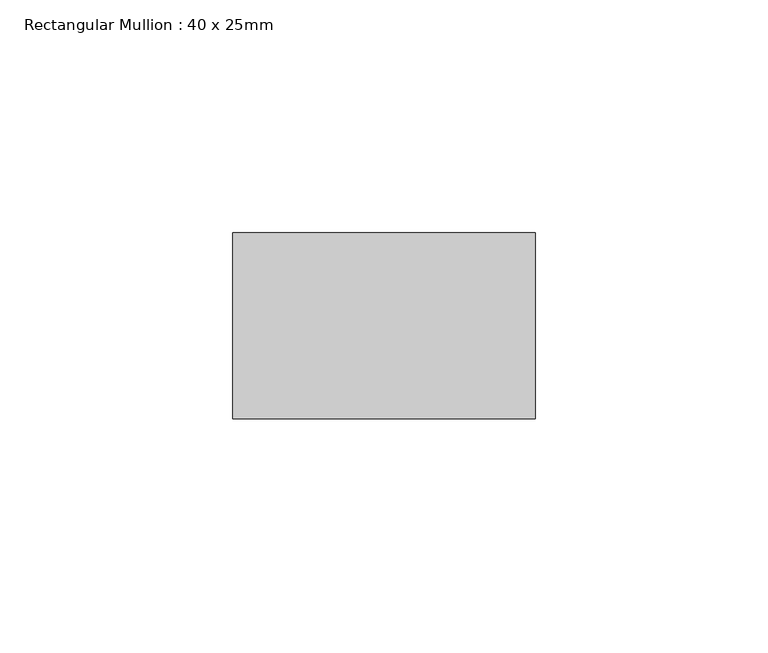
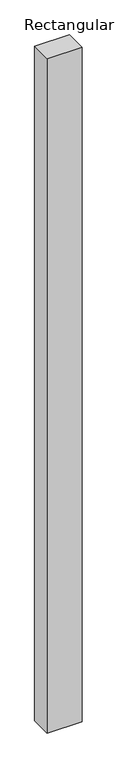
"""IFC4 building model written with IfcOpenShell, lengths in millimetres: member geometry, Rectangular Mullion : 40 x 25mm."""

import ifcopenshell
import ifcopenshell.guid

model = None  # the IFC model being written
_history = None  # IfcOwnerHistory: only IFC2X3 demands one
_inside = {}  # id of a spatial element -> (the spatial element, [elements in it])
_under = {}  # id of a project, library or spatial element -> (it, [spatial elements below it])
_declared = {}  # id of a project -> (the project, [libraries it declares])
_typed = {}  # id of a type object -> (the type object, [elements of that type])
_made_of = {}  # id of a material, layer set ... -> (it, [elements and type objects made of it])


def new_model(schema):
    """Start an empty IFC model of exactly this schema.

    Asked for "IFC4X3", IfcOpenShell would pick the latest addendum, in which some entities
    have other attributes; the version numbers below select the first issue.
    IFC2X3 requires an IfcOwnerHistory on every rooted entity: one is made here for all.
    """
    global model, _history
    if schema == "IFC4X3":
        model = ifcopenshell.file(schema_version=(4, 3, 0, 0))
    else:
        model = ifcopenshell.file(schema=schema)
    _inside.clear()
    _under.clear()
    _declared.clear()
    _typed.clear()
    _made_of.clear()
    _history = None
    if model.schema == "IFC2X3":
        org = make("IfcOrganization", Name="unknown")
        user = make(
            "IfcPersonAndOrganization",
            ThePerson=make("IfcPerson", FamilyName="unknown"),
            TheOrganization=org,
        )
        app = make(
            "IfcApplication",
            ApplicationDeveloper=org,
            Version="unknown",
            ApplicationFullName="unknown",
            ApplicationIdentifier="unknown",
        )
        _history = make(
            "IfcOwnerHistory",
            OwningUser=user,
            OwningApplication=app,
            ChangeAction="ADDED",
            CreationDate=0,
        )
    return model


def make(cls, **values):
    """One entity of the class cls with the attributes given. An attribute that is None is left unset."""
    return model.create_entity(
        cls, **{name: value for name, value in values.items() if value is not None}
    )


def rooted(cls, **values):
    """An entity with a GlobalId (a new one), such as an element, a storey or a relation."""
    return make(cls, GlobalId=ifcopenshell.guid.new(), OwnerHistory=_history, **values)


def si_unit(unit_type, name, prefix=None):
    """IfcSIUnit, for example si_unit("LENGTHUNIT", "METRE", prefix="MILLI")."""
    return make("IfcSIUnit", UnitType=unit_type, Prefix=prefix, Name=name)


def assignment(units):
    """IfcUnitAssignment: the units of a project."""
    return None if units is None else make("IfcUnitAssignment", Units=units)


def point(xyz):
    """IfcCartesianPoint."""
    return None if xyz is None else make("IfcCartesianPoint", Coordinates=xyz)


def direction(xyz):
    """IfcDirection."""
    return None if xyz is None else make("IfcDirection", DirectionRatios=xyz)


def frame(location, z_axis=None, x_axis=None):
    """IfcAxis2Placement3D, a coordinate frame: its origin and axes. An axis left out is left unset."""
    return make(
        "IfcAxis2Placement3D",
        Location=point(location),
        Axis=direction(z_axis),
        RefDirection=direction(x_axis),
    )


def origin():
    """The frame at (0, 0, 0) with its axes left unset."""
    return frame((0.0, 0.0, 0.0))


def place(relative_to, where):
    """IfcLocalPlacement: puts the frame where relative to a parent placement (None: the world)."""
    return make(
        "IfcLocalPlacement", PlacementRelTo=relative_to, RelativePlacement=where
    )


def context(
    kind, dimensions, precision=None, world=None, true_north=None, identifier=None
):
    """IfcGeometricRepresentationContext, for example the 3D "Model" context."""
    return make(
        "IfcGeometricRepresentationContext",
        ContextIdentifier=identifier,
        ContextType=kind,
        CoordinateSpaceDimension=dimensions,
        Precision=precision,
        WorldCoordinateSystem=world,
        TrueNorth=true_north,
    )


def project(units=None, contexts=None):
    """IfcProject with its units and contexts."""
    return rooted(
        "IfcProject",
        Name="project",
        RepresentationContexts=contexts,
        UnitsInContext=assignment(units),
    )


def spatial(cls, under=None, at=None, **own):
    """A site, building, storey or space (cls), placed at a placement, below another one or the project."""
    s = rooted(cls, ObjectPlacement=at, **own)
    if under is not None:
        _under.setdefault(under.id(), (under, []))[1].append(s)
    return s


def polyline(points):
    """IfcPolyline through the points."""
    return make("IfcPolyline", Points=[point(p) for p in points])


def outline(outer, holes=None, kind="AREA"):
    """IfcArbitraryClosedProfileDef: a profile drawn as a closed curve; with holes, ...WithVoids."""
    if holes is None:
        return make("IfcArbitraryClosedProfileDef", ProfileType=kind, OuterCurve=outer)
    return make(
        "IfcArbitraryProfileDefWithVoids",
        ProfileType=kind,
        OuterCurve=outer,
        InnerCurves=holes,
    )


def extrude(swept, where, along, depth):
    """IfcExtrudedAreaSolid: the profile swept, set in the frame where, extruded along a direction by depth."""
    return make(
        "IfcExtrudedAreaSolid",
        SweptArea=swept,
        Position=where,
        ExtrudedDirection=direction(along),
        Depth=depth,
    )


def shape(context_of_items, identifier, shape_type, items):
    """IfcShapeRepresentation: the items that make up one representation, for example the "Body"."""
    return make(
        "IfcShapeRepresentation",
        ContextOfItems=context_of_items,
        RepresentationIdentifier=identifier,
        RepresentationType=shape_type,
        Items=items,
    )


def source(mapping_origin, context_of_items, identifier, shape_type, items):
    """IfcRepresentationMap: a shape defined once, which mapped items show again and again."""
    return make(
        "IfcRepresentationMap",
        MappingOrigin=mapping_origin,
        MappedRepresentation=shape(context_of_items, identifier, shape_type, items),
    )


def transform(
    local_origin,
    x_axis=None,
    y_axis=None,
    z_axis=None,
    scale=None,
    scale2=None,
    scale3=None,
    uniform=True,
):
    """IfcCartesianTransformationOperator3D, or its non-uniform kind. x_axis, y_axis, z_axis: its Axis1, 2, 3."""
    if uniform:
        return make(
            "IfcCartesianTransformationOperator3D",
            Axis1=direction(x_axis),
            Axis2=direction(y_axis),
            LocalOrigin=point(local_origin),
            Scale=scale,
            Axis3=direction(z_axis),
        )
    return make(
        "IfcCartesianTransformationOperator3DnonUniform",
        Axis1=direction(x_axis),
        Axis2=direction(y_axis),
        LocalOrigin=point(local_origin),
        Scale=scale,
        Axis3=direction(z_axis),
        Scale2=scale2,
        Scale3=scale3,
    )


def mapped(mapping_source, mapping_target):
    """IfcMappedItem: shows the shape of a source again, moved by a transform."""
    return make(
        "IfcMappedItem", MappingSource=mapping_source, MappingTarget=mapping_target
    )


def made_of(thing, what):
    """Note that an element or type object is made of a material, layer set ...; save() writes the relation."""
    if what is not None:
        _made_of.setdefault(what.id(), (what, []))[1].append(thing)
    return thing


def element(
    cls,
    number,
    at=None,
    inside=None,
    cuts=None,
    type_object=None,
    material=None,
    context=None,
    identifier="Body",
    shape_type=None,
    held_by="IfcProductDefinitionShape",
    body=None,
    shapes=None,
    **own,
):
    """One element of the class cls, such as IfcWall. Its Tag is "e" and its number.

    at: its placement. inside: the storey or other place that contains it. cuts: it is an
    opening in that element (IfcRelVoidsElement). A single representation is given by context,
    identifier, shape_type and body (its items); several are given by shapes. held_by: the class
    of the entity that holds the representations. save() writes the other relations.
    """
    e = rooted(cls, Tag="e%d" % number, ObjectPlacement=at, **own)
    if body is not None:
        shapes = [shape(context, identifier, shape_type, body)]
    if shapes is not None:
        e.Representation = make(held_by, Representations=shapes)
    if inside is not None:
        _inside.setdefault(inside.id(), (inside, []))[1].append(e)
    if cuts is not None:
        rooted(
            "IfcRelVoidsElement", RelatingBuildingElement=cuts, RelatedOpeningElement=e
        )
    if type_object is not None:
        _typed.setdefault(type_object.id(), (type_object, []))[1].append(e)
    return made_of(e, material)


def aggregate(whole, parts):
    """IfcRelAggregates: a whole, such as a stair, and the parts it consists of."""
    return rooted("IfcRelAggregates", RelatingObject=whole, RelatedObjects=parts)


def save(model, path):
    """Write the relations noted so far, then the file.

    IfcRelAggregates (storeys below a building ...), IfcRelContainedInSpatialStructure (elements
    in a storey), IfcRelDefinesByType, IfcRelAssociatesMaterial and IfcRelDeclares: one each for
    every whole, place, type object, material and project.
    """
    for whole, parts in _under.values():
        aggregate(whole, parts)
    for where, things in _inside.values():
        rooted(
            "IfcRelContainedInSpatialStructure",
            RelatedElements=things,
            RelatingStructure=where,
        )
    for kind, things in _typed.values():
        rooted("IfcRelDefinesByType", RelatedObjects=things, RelatingType=kind)
    for what, things in _made_of.values():
        rooted("IfcRelAssociatesMaterial", RelatedObjects=things, RelatingMaterial=what)
    for by, libraries in _declared.values():
        rooted("IfcRelDeclares", RelatingContext=by, RelatedDefinitions=libraries)
    model.write(path)


def rectangular_mullion_40_x_25mm_3e7d6be8(model_context):
    return source(origin(), model_context, "Body", "SweptSolid", [
        extrude(outline(polyline([(40.0, -20.0), (40.0, -60.0), (-25.0, -60.0), (-25.0, -20.0), (40.0, -20.0)])), frame((0.0, 0.0, -1330.0), z_axis=(0.0, 0.0, 1.0), x_axis=(1.0, 0.0, 0.0)), (0.0, 0.0, 1.0), 1330.0),
    ])


if __name__ == "__main__":
    model = new_model("IFC4")
    model_context = context("Model", 3, world=origin())
    ifc_project = project(units=[si_unit("LENGTHUNIT", "METRE", prefix="MILLI")], contexts=[model_context])
    site = spatial("IfcSite", under=ifc_project)
    building = spatial("IfcBuilding", under=site)
    placement = place(None, origin())
    rectangular_mullion_40_x_25mm_shape = rectangular_mullion_40_x_25mm_3e7d6be8(model_context)
    element("IfcMember", 1, ObjectType="Rectangular Mullion : 40 x 25mm", at=placement, inside=building, context=model_context, shape_type="MappedRepresentation", body=[
        mapped(rectangular_mullion_40_x_25mm_shape, transform((0.0, 0.0, 0.0), x_axis=(1.0, 0.0, 0.0), y_axis=(0.0, 1.0, 0.0), z_axis=(0.0, 0.0, 1.0))),
    ])
    save(model, "model.ifc")
